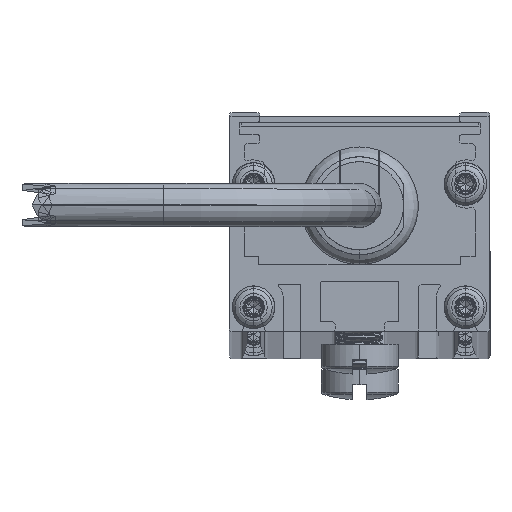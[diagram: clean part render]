
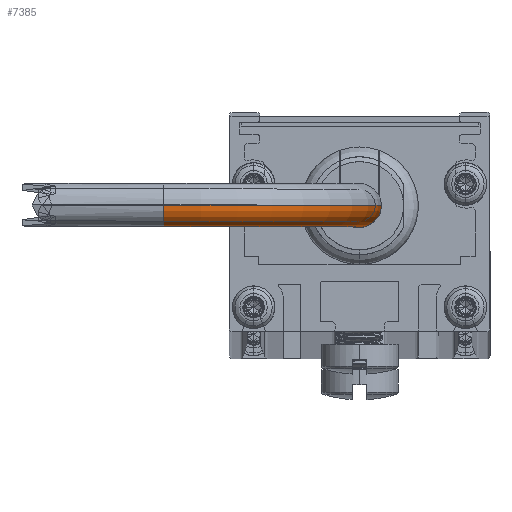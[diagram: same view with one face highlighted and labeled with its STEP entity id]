
A CAD part, top view. The second image highlights one B-rep face of the part: STEP entity #7385.
In plain terms, the highlighted toroidal (fillet/blend) face has major radius 25.4 mm and minor radius 2.845 mm.
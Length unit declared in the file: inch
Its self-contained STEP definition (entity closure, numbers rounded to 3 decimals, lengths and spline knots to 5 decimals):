
#368 = ORIENTED_EDGE ( 'NONE', *, *, #14300, .F. ) ;
#573 = TOROIDAL_SURFACE ( 'NONE', #7137, 1., 0.112 ) ;
#596 = EDGE_CURVE ( 'NONE', #8888, #15895, #14015, .T. ) ;
#868 = DIRECTION ( 'NONE',  ( 0., 0., -1. ) ) ;
#2151 = CIRCLE ( 'NONE', #5253, 0.888 ) ;
#2306 = CIRCLE ( 'NONE', #17576, 0.112 ) ;
#2928 = EDGE_CURVE ( 'NONE', #11484, #15895, #2151, .T. ) ;
#4194 = DIRECTION ( 'NONE',  ( 1., 0., 0. ) ) ;
#4254 = CIRCLE ( 'NONE', #15957, 1.112 ) ;
#4625 = EDGE_CURVE ( 'NONE', #8727, #8888, #4254, .T. ) ;
#4752 = DIRECTION ( 'NONE',  ( 0., -1., 0. ) ) ;
#5250 = ORIENTED_EDGE ( 'NONE', *, *, #4625, .T. ) ;
#5253 = AXIS2_PLACEMENT_3D ( 'NONE', #18610, #15478, #4194 ) ;
#7137 = AXIS2_PLACEMENT_3D ( 'NONE', #9645, #14122, #868 ) ;
#7385 = ADVANCED_FACE ( 'NONE', ( #8508 ), #573, .T. ) ;
#7593 = CARTESIAN_POINT ( 'NONE',  ( 1., 0., -1. ) ) ;
#8508 = FACE_OUTER_BOUND ( 'NONE', #17213, .T. ) ;
#8727 = VERTEX_POINT ( 'NONE', #16298 ) ;
#8888 = VERTEX_POINT ( 'NONE', #9658 ) ;
#9045 = CARTESIAN_POINT ( 'NONE',  ( 0., 0., -1. ) ) ;
#9645 = CARTESIAN_POINT ( 'NONE',  ( 1., 0., -1. ) ) ;
#9658 = CARTESIAN_POINT ( 'NONE',  ( 1., 0., -2.112 ) ) ;
#10363 = DIRECTION ( 'NONE',  ( 0., 0., 1. ) ) ;
#11244 = DIRECTION ( 'NONE',  ( 0., 0., 1. ) ) ;
#11466 = ORIENTED_EDGE ( 'NONE', *, *, #596, .T. ) ;
#11484 = VERTEX_POINT ( 'NONE', #15681 ) ;
#12105 = AXIS2_PLACEMENT_3D ( 'NONE', #17151, #18617, #11244 ) ;
#13308 = DIRECTION ( 'NONE',  ( 1., 0., 0. ) ) ;
#13554 = CARTESIAN_POINT ( 'NONE',  ( 1., 0., -1.888 ) ) ;
#14015 = CIRCLE ( 'NONE', #12105, 0.112 ) ;
#14122 = DIRECTION ( 'NONE',  ( 0., -1., 0. ) ) ;
#14300 = EDGE_CURVE ( 'NONE', #8727, #11484, #2306, .T. ) ;
#14798 = ORIENTED_EDGE ( 'NONE', *, *, #2928, .F. ) ;
#14954 = DIRECTION ( 'NONE',  ( 1., 0., 0. ) ) ;
#15478 = DIRECTION ( 'NONE',  ( 0., -1., 0. ) ) ;
#15681 = CARTESIAN_POINT ( 'NONE',  ( 0.112, 0., -1. ) ) ;
#15895 = VERTEX_POINT ( 'NONE', #13554 ) ;
#15957 = AXIS2_PLACEMENT_3D ( 'NONE', #7593, #4752, #14954 ) ;
#16298 = CARTESIAN_POINT ( 'NONE',  ( -0.112, 0., -1. ) ) ;
#17151 = CARTESIAN_POINT ( 'NONE',  ( 1., 0., -2. ) ) ;
#17213 = EDGE_LOOP ( 'NONE', ( #368, #5250, #11466, #14798 ) ) ;
#17576 = AXIS2_PLACEMENT_3D ( 'NONE', #9045, #10363, #13308 ) ;
#18610 = CARTESIAN_POINT ( 'NONE',  ( 1., 0., -1. ) ) ;
#18617 = DIRECTION ( 'NONE',  ( -1., 0., 0. ) ) ;
